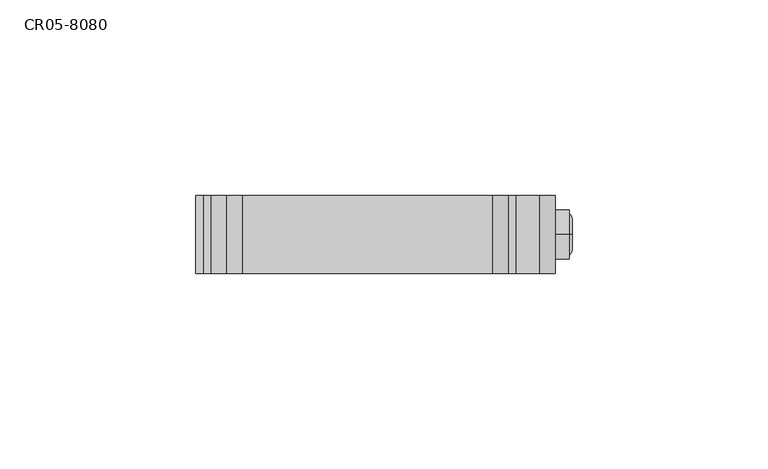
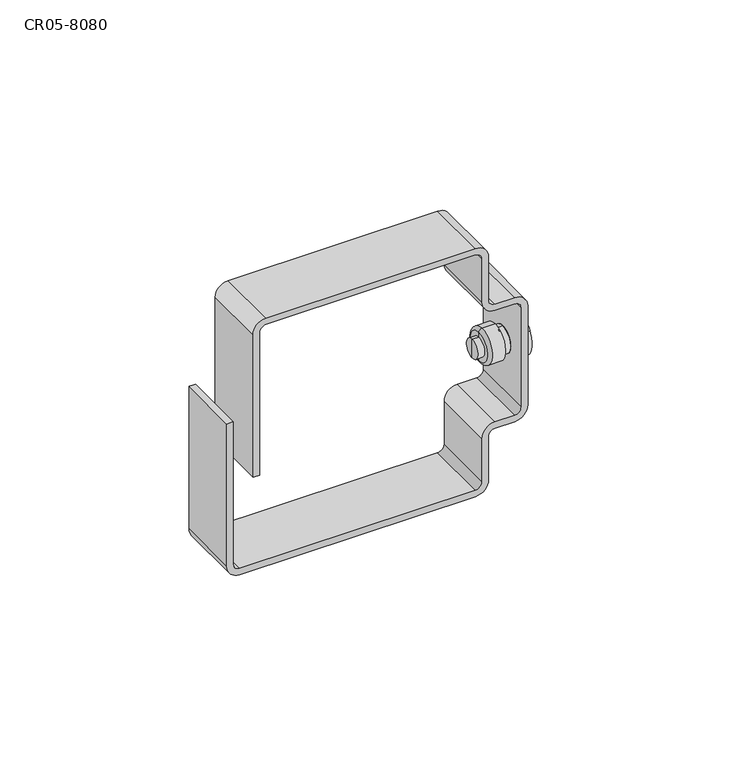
"""IFC4 building model written with IfcOpenShell, lengths in millimetres: proxy geometry, Кабельное кольцо : CR05-8080."""

from ifc_helpers import new_model, si_unit, point, frame, frame_2d, origin, place, context, project, spatial, polyline, circle_curve, ellipse_curve, trimmed, segment, composite_curve, outline, extrude, source, transform, mapped, element, save
from ifc_brep_helpers import plane_surface, cylinder_surface, revolved_surface, advanced_brep


def cr05_8080_1d3823d1(model_context):
    return source(origin(), model_context, "Body", "SolidModel", [
        advanced_brep(
        [(4.3499926, 0.0, 40.0), (4.3499926, 0.0, 43.4939324), (4.3499926, 0.0, 36.5060676), (-11.2500032, 0.0, 37.0000014), (-11.2500032, 0.0, 42.9999986), (-11.2500032, 0.0, 40.0), (-9.2000058, 0.0, 37.0000014), (-9.2000058, 0.0, 42.9999986), (-9.2000058, 0.0, 35.496734), (-9.2000058, 0.0, 44.503266), (-8.2032755, 0.0, 34.5000038), (-8.2032755, 0.0, 45.4999962), (-4.2, 0.0, 34.5000038), (-4.2, 0.0, 45.4999962), (-2.0, 0.0, 35.8266483), (-2.0, 0.0, 44.1733517), (0.0, 0.0, 35.8266483), (0.0, 0.0, 44.1733517), (0.0, 0.0, 33.7499985), (0.0, 0.0, 46.2500015), (3.5000006, 0.0, 33.7499985), (3.5000006, 0.0, 46.2500015), (3.5000006, 0.0, 34.6218349), (3.5000006, 0.0, 45.3781651)],
        [
            (0, 1),
            (1, 2, circle_curve(frame((4.3499926, 0.0, 40.0), z_axis=(1.0, 0.0, 0.0), x_axis=(0.0, 0.0, 1.0)), 3.4939324)),
            (2, 0),
            (2, 1, circle_curve(frame((4.3499926, 0.0, 40.0), z_axis=(1.0, 0.0, 0.0), x_axis=(0.0, 0.0, 1.0)), 3.4939324)),
            (3, 4, circle_curve(frame((-11.2500032, 0.0, 40.0), z_axis=(-1.0, 0.0, 0.0), x_axis=(0.0, 0.0, 1.0)), 2.9999986)),
            (4, 5),
            (5, 3),
            (4, 3, circle_curve(frame((-11.2500032, 0.0, 40.0), z_axis=(-1.0, 0.0, 0.0), x_axis=(0.0, 0.0, 1.0)), 2.9999986)),
            (6, 7, circle_curve(frame((-9.2000058, 0.0, 40.0), z_axis=(-1.0, 0.0, 0.0), x_axis=(0.0, 0.0, 1.0)), 2.9999986)),
            (7, 4),
            (3, 6),
            (7, 6, circle_curve(frame((-9.2000058, 0.0, 40.0), z_axis=(-1.0, 0.0, 0.0), x_axis=(0.0, 0.0, 1.0)), 2.9999986)),
            (8, 9, circle_curve(frame((-9.2000058, 0.0, 40.0), z_axis=(-1.0, 0.0, 0.0), x_axis=(0.0, 0.0, 1.0)), 4.503266)),
            (9, 7),
            (6, 8),
            (9, 8, circle_curve(frame((-9.2000058, 0.0, 40.0), z_axis=(-1.0, 0.0, 0.0), x_axis=(0.0, 0.0, 1.0)), 4.503266)),
            (10, 11, circle_curve(frame((-8.2032755, 0.0, 40.0), z_axis=(-1.0, 0.0, 0.0), x_axis=(0.0, 0.0, 1.0)), 5.4999962)),
            (11, 9, circle_curve(frame((-8.2032755, 0.0, 44.503266), z_axis=(0.0, -1.0, 0.0), x_axis=(0.0, 0.0, -1.0)), 0.9967303)),
            (8, 10, circle_curve(frame((-8.2032755, 0.0, 35.496734), z_axis=(0.0, -1.0, 0.0), x_axis=(0.0, 0.0, 1.0)), 0.9967303)),
            (11, 10, circle_curve(frame((-8.2032755, 0.0, 40.0), z_axis=(-1.0, 0.0, 0.0), x_axis=(0.0, 0.0, 1.0)), 5.4999962)),
            (12, 13, circle_curve(frame((-4.2, 0.0, 40.0), z_axis=(-1.0, 0.0, 0.0), x_axis=(0.0, 0.0, 1.0)), 5.4999962)),
            (13, 11),
            (10, 12),
            (13, 12, circle_curve(frame((-4.2, 0.0, 40.0), z_axis=(-1.0, 0.0, 0.0), x_axis=(0.0, 0.0, 1.0)), 5.4999962)),
            (14, 15, circle_curve(frame((-2.0, 0.0, 40.0), z_axis=(-1.0, 0.0, 0.0), x_axis=(0.0, 0.0, 1.0)), 4.1733517)),
            (15, 13, circle_curve(frame((-2.7, 0.0, 45.5000016), z_axis=(0.0, 1.0, 0.0), x_axis=(0.0, 0.0, -1.0)), 1.5)),
            (12, 14, circle_curve(frame((-2.7, 0.0, 34.4999984), z_axis=(0.0, 1.0, 0.0), x_axis=(0.0, 0.0, 1.0)), 1.5)),
            (15, 14, circle_curve(frame((-2.0, 0.0, 40.0), z_axis=(-1.0, 0.0, 0.0), x_axis=(0.0, 0.0, 1.0)), 4.1733517)),
            (16, 17, circle_curve(frame((0.0, 0.0, 40.0), z_axis=(-1.0, 0.0, 0.0), x_axis=(0.0, 0.0, 1.0)), 4.1733517)),
            (17, 15),
            (14, 16),
            (17, 16, circle_curve(frame((0.0, 0.0, 40.0), z_axis=(-1.0, 0.0, 0.0), x_axis=(0.0, 0.0, 1.0)), 4.1733517)),
            (18, 19, circle_curve(frame((0.0, 0.0, 40.0), z_axis=(-1.0, 0.0, 0.0), x_axis=(0.0, 0.0, 1.0)), 6.2500015)),
            (19, 17),
            (16, 18),
            (19, 18, circle_curve(frame((0.0, 0.0, 40.0), z_axis=(-1.0, 0.0, 0.0), x_axis=(0.0, 0.0, 1.0)), 6.2500015)),
            (20, 21, circle_curve(frame((3.5000006, 0.0, 40.0), z_axis=(-1.0, 0.0, 0.0), x_axis=(0.0, 0.0, 1.0)), 6.2500015)),
            (21, 19),
            (18, 20),
            (21, 20, circle_curve(frame((3.5000006, 0.0, 40.0), z_axis=(-1.0, 0.0, 0.0), x_axis=(0.0, 0.0, 1.0)), 6.2500015)),
            (22, 23, circle_curve(frame((3.5000006, 0.0, 40.0), z_axis=(-1.0, 0.0, 0.0), x_axis=(0.0, 0.0, 1.0)), 5.3781651)),
            (23, 21),
            (20, 22),
            (23, 22, circle_curve(frame((3.5000006, 0.0, 40.0), z_axis=(-1.0, 0.0, 0.0), x_axis=(0.0, 0.0, 1.0)), 5.3781651)),
            (1, 23, circle_curve(frame((1.85, 0.0, 43.5000016), z_axis=(0.0, -1.0, 0.0), x_axis=(0.0, 0.0, -1.0)), 2.5)),
            (22, 2, circle_curve(frame((1.85, 0.0, 36.4999984), z_axis=(0.0, -1.0, 0.0), x_axis=(0.0, 0.0, 1.0)), 2.5)),
        ],
        [
            plane_surface(frame((4.3499926, 0.0, 40.0), z_axis=(1.0, 0.0, 0.0), x_axis=(0.0, 0.0, 1.0))),
            plane_surface(frame((-11.2500032, 0.0, 40.0), z_axis=(-1.0, 0.0, 0.0), x_axis=(0.0, 0.0, 1.0))),
            cylinder_surface(frame((-2609.0581012, 0.0, 40.0), z_axis=(1.0, 0.0, 0.0), x_axis=(0.0, 0.0, 1.0)), 2.9999986),
            plane_surface(frame((-9.2000058, 0.0, 40.0), z_axis=(-1.0, 0.0, 0.0), x_axis=(0.0, 0.0, 1.0))),
            revolved_surface(trimmed(ellipse_curve(frame((-8.2032755, 0.0, 44.503266), z_axis=(0.0, 1.0, 0.0), x_axis=(0.0, 0.0, -1.0)), 0.9967303, 0.9967303), [point((-9.2000058, 0.0, 44.503266))], [point((-8.2032755, 0.0, 45.4999962))], True, "CARTESIAN"), (-2609.0581012, 0.0, 40.0), (1.0, 0.0, 0.0)),
            cylinder_surface(frame((-2609.0581012, 0.0, 40.0), z_axis=(1.0, 0.0, 0.0), x_axis=(0.0, 0.0, 1.0)), 5.4999962),
            revolved_surface(trimmed(ellipse_curve(frame((-2.7, 0.0, 45.5000016), z_axis=(0.0, -1.0, 0.0), x_axis=(0.0, 0.0, -1.0)), 1.5, 1.5), [point((-4.2, 0.0, 45.4999962))], [point((-2.0, 0.0, 44.1733517))], True, "CARTESIAN"), (-2609.0581012, 0.0, 40.0), (1.0, 0.0, 0.0)),
            cylinder_surface(frame((-2609.0581012, 0.0, 40.0), z_axis=(1.0, 0.0, 0.0), x_axis=(0.0, 0.0, 1.0)), 4.1733517),
            plane_surface(frame((0.0, 0.0, 40.0), z_axis=(-1.0, 0.0, 0.0), x_axis=(0.0, 0.0, 1.0))),
            cylinder_surface(frame((-2609.0581012, 0.0, 40.0), z_axis=(1.0, 0.0, 0.0), x_axis=(0.0, 0.0, 1.0)), 6.2500015),
            plane_surface(frame((3.5000006, 0.0, 40.0), z_axis=(1.0, 0.0, 0.0), x_axis=(0.0, 0.0, 1.0))),
            revolved_surface(trimmed(ellipse_curve(frame((1.85, 0.0, 43.5000016), z_axis=(0.0, 1.0, 0.0), x_axis=(0.0, 0.0, -1.0)), 2.5, 2.5), [point((3.5000006, 0.0, 45.3781651))], [point((4.3499926, 0.0, 43.4939324))], True, "CARTESIAN"), (-2609.0581012, 0.0, 40.0), (1.0, 0.0, 0.0)),
        ],
        [
            (0, [[1, 2, 3]]),
            (0, [[-3, 4, -1]]),
            (1, [[5, 6, 7]]),
            (1, [[8, -7, -6]]),
            (2, [[9, 10, -5, 11]]),
            (2, [[12, -11, -8, -10]]),
            (3, [[13, 14, -9, 15]]),
            (3, [[16, -15, -12, -14]]),
            (4, [[17, 18, -13, 19]]),
            (4, [[20, -19, -16, -18]]),
            (5, [[21, 22, -17, 23]]),
            (5, [[24, -23, -20, -22]]),
            (6, [[25, 26, -21, 27]]),
            (6, [[28, -27, -24, -26]]),
            (7, [[29, 30, -25, 31]]),
            (7, [[32, -31, -28, -30]]),
            (8, [[33, 34, -29, 35]]),
            (8, [[36, -35, -32, -34]]),
            (9, [[37, 38, -33, 39]]),
            (9, [[40, -39, -36, -38]]),
            (10, [[41, 42, -37, 43]]),
            (10, [[44, -43, -40, -42]]),
            (11, [[-2, 45, -41, 46]]),
            (11, [[-4, -46, -44, -45]]),
        ],
    ),
        extrude(outline(composite_curve([segment(trimmed(circle_curve(frame_2d((4.0, -88.0)), 4.0), [point((4.0, -92.0))], [point((0.0, -88.0))], False, "CARTESIAN"), True, "CONTINUOUS"), segment(polyline([(0.0, -88.0), (0.0, -16.0)]), True, "CONTINUOUS"), segment(trimmed(circle_curve(frame_2d((4.0, -16.0)), 4.0), [point((0.0, -16.0))], [point((4.0, -12.0))], False, "CARTESIAN"), True, "CONTINUOUS"), segment(polyline([(4.0, -12.0), (18.0, -12.0)]), True, "CONTINUOUS"), segment(trimmed(circle_curve(frame_2d((18.0, -10.0)), 2.0), [point((18.0, -12.0))], [point((20.0, -10.0))], True, "CARTESIAN"), True, "CONTINUOUS"), segment(polyline([(20.0, -10.0), (20.0, -4.0)]), True, "CONTINUOUS"), segment(trimmed(circle_curve(frame_2d((24.0, -4.0)), 4.0), [point((20.0, -4.0))], [point((24.0, 0.0))], False, "CARTESIAN"), True, "CONTINUOUS"), segment(polyline([(24.0, 0.0), (56.0, 0.0)]), True, "CONTINUOUS"), segment(trimmed(circle_curve(frame_2d((56.0, -4.0)), 4.0), [point((56.0, 0.0))], [point((60.0, -4.0))], False, "CARTESIAN"), True, "CONTINUOUS"), segment(polyline([(60.0, -4.0), (60.0, -10.0)]), True, "CONTINUOUS"), segment(trimmed(circle_curve(frame_2d((62.0, -10.0)), 2.0), [point((60.0, -10.0))], [point((62.0, -12.0))], True, "CARTESIAN"), True, "CONTINUOUS"), segment(polyline([(62.0, -12.0), (76.0, -12.0)]), True, "CONTINUOUS"), segment(trimmed(circle_curve(frame_2d((76.0, -16.0)), 4.0), [point((76.0, -12.0))], [point((80.0, -16.0))], False, "CARTESIAN"), True, "CONTINUOUS"), segment(polyline([(80.0, -16.0), (80.0, -80.0)]), True, "CONTINUOUS"), segment(trimmed(circle_curve(frame_2d((76.0, -80.0)), 4.0), [point((80.0, -80.0))], [point((76.0, -84.0))], False, "CARTESIAN"), True, "CONTINUOUS"), segment(polyline([(76.0, -84.0), (30.0, -84.0), (30.0, -82.0), (76.0, -82.0)]), True, "CONTINUOUS"), segment(trimmed(circle_curve(frame_2d((76.0, -80.0)), 2.0), [point((76.0, -82.0))], [point((78.0, -80.0))], True, "CARTESIAN"), True, "CONTINUOUS"), segment(polyline([(78.0, -80.0), (78.0, -16.0)]), True, "CONTINUOUS"), segment(trimmed(circle_curve(frame_2d((76.0, -16.0)), 2.0), [point((78.0, -16.0))], [point((76.0, -14.0))], True, "CARTESIAN"), True, "CONTINUOUS"), segment(polyline([(76.0, -14.0), (62.0, -14.0)]), True, "CONTINUOUS"), segment(trimmed(circle_curve(frame_2d((62.0, -10.0)), 4.0), [point((62.0, -14.0))], [point((58.0, -10.0))], False, "CARTESIAN"), True, "CONTINUOUS"), segment(polyline([(58.0, -10.0), (58.0, -4.0)]), True, "CONTINUOUS"), segment(trimmed(circle_curve(frame_2d((56.0, -4.0)), 2.0), [point((58.0, -4.0))], [point((56.0, -2.0))], True, "CARTESIAN"), True, "CONTINUOUS"), segment(polyline([(56.0, -2.0), (24.0, -2.0)]), True, "CONTINUOUS"), segment(trimmed(circle_curve(frame_2d((24.0, -4.0)), 2.0), [point((24.0, -2.0))], [point((22.0, -4.0))], True, "CARTESIAN"), True, "CONTINUOUS"), segment(polyline([(22.0, -4.0), (22.0, -10.0)]), True, "CONTINUOUS"), segment(trimmed(circle_curve(frame_2d((18.0, -10.0)), 4.0), [point((22.0, -10.0))], [point((18.0, -14.0))], False, "CARTESIAN"), True, "CONTINUOUS"), segment(polyline([(18.0, -14.0), (4.0, -14.0)]), True, "CONTINUOUS"), segment(trimmed(circle_curve(frame_2d((4.0, -16.0)), 2.0), [point((4.0, -14.0))], [point((2.0, -16.0))], True, "CARTESIAN"), True, "CONTINUOUS"), segment(polyline([(2.0, -16.0), (2.0, -88.0)]), True, "CONTINUOUS"), segment(trimmed(circle_curve(frame_2d((4.0, -88.0)), 2.0), [point((2.0, -88.0))], [point((4.0, -90.0))], True, "CARTESIAN"), True, "CONTINUOUS"), segment(polyline([(4.0, -90.0), (50.0, -90.0), (50.0, -92.0), (4.0, -92.0)]), True, "CONTINUOUS")], self_intersect=False)), frame((0.0, -10.0, 0.0), z_axis=(0.0, 1.0, 0.0), x_axis=(0.0, 0.0, 1.0)), (0.0, 0.0, 1.0), 20.0),
    ])


if __name__ == "__main__":
    model = new_model("IFC4")
    model_context = context("Model", 3, world=origin())
    ifc_project = project(units=[si_unit("LENGTHUNIT", "METRE", prefix="MILLI")], contexts=[model_context])
    site = spatial("IfcSite", under=ifc_project)
    building = spatial("IfcBuilding", under=site)
    placement = place(None, origin())
    cr05_8080_shape = cr05_8080_1d3823d1(model_context)
    element("IfcBuildingElementProxy", 1, Name="Кабельное кольцо : CR05-8080", ObjectType="Кабельное кольцо : CR05-8080", at=placement, inside=building, context=model_context, shape_type="MappedRepresentation", body=[
        mapped(cr05_8080_shape, transform((0.0, 0.0, 0.0), x_axis=(1.0, 0.0, 0.0), y_axis=(0.0, 1.0, 0.0), z_axis=(0.0, 0.0, 1.0))),
    ])
    save(model, "model.ifc")
